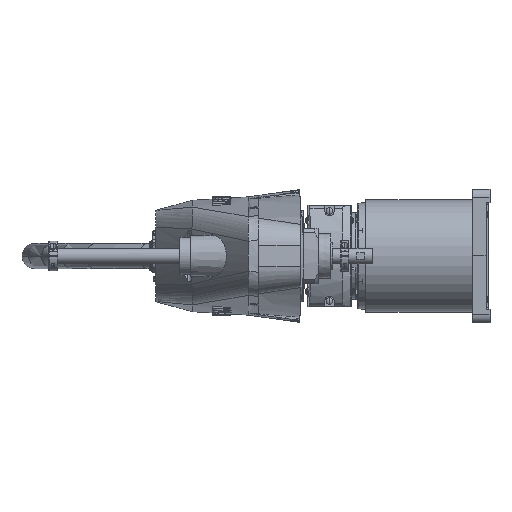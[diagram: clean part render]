
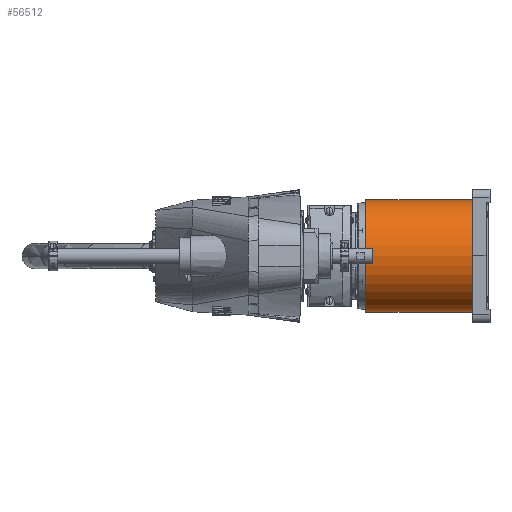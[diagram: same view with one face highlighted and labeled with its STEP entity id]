
A CAD part, left-side view. The second image highlights one B-rep face of the part: STEP entity #56512.
In plain terms, the highlighted cylindrical face has radius 71 mm (diameter 142 mm), a partial arc.
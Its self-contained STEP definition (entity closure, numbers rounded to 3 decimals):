
#2039 = CIRCLE ( 'NONE', #70715, 71. ) ;
#9030 = LINE ( 'NONE', #53724, #85236 ) ;
#13139 = AXIS2_PLACEMENT_3D ( 'NONE', #58149, #50789, #25368 ) ;
#13868 = CARTESIAN_POINT ( 'NONE',  ( 0., 22., -71. ) ) ;
#14495 = VERTEX_POINT ( 'NONE', #69821 ) ;
#20151 = DIRECTION ( 'NONE',  ( -1., 0., 0. ) ) ;
#23687 = CYLINDRICAL_SURFACE ( 'NONE', #13139, 71. ) ;
#25368 = DIRECTION ( 'NONE',  ( 0., 0., -1. ) ) ;
#26157 = ORIENTED_EDGE ( 'NONE', *, *, #77760, .F. ) ;
#27522 = DIRECTION ( 'NONE',  ( 0., 1., 0. ) ) ;
#28078 = ORIENTED_EDGE ( 'NONE', *, *, #56335, .T. ) ;
#28619 = CARTESIAN_POINT ( 'NONE',  ( 0., 157.5, 0. ) ) ;
#36280 = CARTESIAN_POINT ( 'NONE',  ( 0., 166.5, 71. ) ) ;
#39086 = CARTESIAN_POINT ( 'NONE',  ( 0., 22., 71. ) ) ;
#40469 = CARTESIAN_POINT ( 'NONE',  ( 0., 22., 0. ) ) ;
#43750 = EDGE_LOOP ( 'NONE', ( #26157, #106152, #28078, #51815 ) ) ;
#49668 = VECTOR ( 'NONE', #80285, 1000. ) ;
#50789 = DIRECTION ( 'NONE',  ( 0., -1., 0. ) ) ;
#51815 = ORIENTED_EDGE ( 'NONE', *, *, #54097, .F. ) ;
#52131 = LINE ( 'NONE', #36280, #49668 ) ;
#52922 = AXIS2_PLACEMENT_3D ( 'NONE', #40469, #67580, #58522 ) ;
#53724 = CARTESIAN_POINT ( 'NONE',  ( 0., 166.5, -71. ) ) ;
#54097 = EDGE_CURVE ( 'NONE', #86470, #103982, #99645, .T. ) ;
#56335 = EDGE_CURVE ( 'NONE', #14495, #103982, #9030, .T. ) ;
#56512 = ADVANCED_FACE ( 'NONE', ( #100983 ), #23687, .T. ) ;
#58149 = CARTESIAN_POINT ( 'NONE',  ( 0., 166.5, 0. ) ) ;
#58522 = DIRECTION ( 'NONE',  ( 0.166, 0., 0.986 ) ) ;
#61048 = DIRECTION ( 'NONE',  ( 0., -1., 0. ) ) ;
#67580 = DIRECTION ( 'NONE',  ( 0., -1., 0. ) ) ;
#69123 = CARTESIAN_POINT ( 'NONE',  ( 0., 157.5, 71. ) ) ;
#69821 = CARTESIAN_POINT ( 'NONE',  ( 0., 157.5, -71. ) ) ;
#70715 = AXIS2_PLACEMENT_3D ( 'NONE', #28619, #27522, #20151 ) ;
#77760 = EDGE_CURVE ( 'NONE', #84207, #86470, #52131, .T. ) ;
#80285 = DIRECTION ( 'NONE',  ( 0., -1., 0. ) ) ;
#84207 = VERTEX_POINT ( 'NONE', #69123 ) ;
#85236 = VECTOR ( 'NONE', #61048, 1000. ) ;
#86470 = VERTEX_POINT ( 'NONE', #39086 ) ;
#89708 = EDGE_CURVE ( 'NONE', #14495, #84207, #2039, .T. ) ;
#99645 = CIRCLE ( 'NONE', #52922, 71. ) ;
#100983 = FACE_OUTER_BOUND ( 'NONE', #43750, .T. ) ;
#103982 = VERTEX_POINT ( 'NONE', #13868 ) ;
#106152 = ORIENTED_EDGE ( 'NONE', *, *, #89708, .F. ) ;
